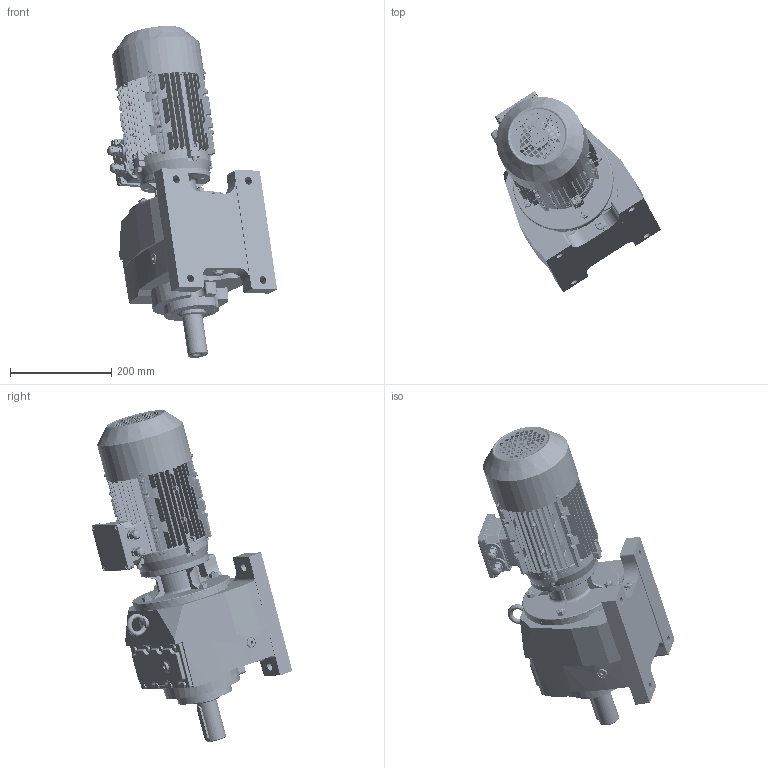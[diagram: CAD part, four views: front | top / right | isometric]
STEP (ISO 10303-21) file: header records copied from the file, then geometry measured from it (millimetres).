
FILE_DESCRIPTION (( 'STEP AP203' ), '1' );
FILE_NAME ('MV_373_0_MX90L.STEP', '2018-12-05T12:54:44', ( '' ), ( '' ), 'SwSTEP 2.0', 'SolidWorks 2012', '' );
FILE_SCHEMA (( 'CONFIG_CONTROL_DESIGN' ));
Length unit declared in the file: millimetre
Products named in the file (26): cross recessed pan head tapping screws gb_GB_CROSS_SCREWS_TYPE128 ST4.2X9.5 H C-N_1; spring lock washers--normal type gb_GB_FASTENER_WASHER_SW 6_1; IE3 90L terminal box cover_1; IE3 90L terminal box_1; IE3 90L fan cover_1; plain parallel keys_GB_CONNECTING_PIECE_KEYS_CSK 8X40_1; IE3 90L fan_1; IE3 90L rotor_1; 3390B14_Varsayìlan; ML2A_Varsayìlan; IE3 90L casing_1; MV_373_0_MX90L; IE3-90L flange B14; hexagon nuts grade c gb_GB_FASTENER_NUT_SNC1 M6-N_1; MX3-90L_B14; IE3 90L  oil seal_1; cross recessed pan head screws gb_GB_CROSS_SCREWS_TYPE1 M5X10-10  H type-N_1; cross recessed pan head screws gb_GB_CROSS_SCREWS_TYPE1 M4X5-5  H type-N_1; IE3 90L cable glandsM16_1; IE3 90L grouding mark_1; circlips for shaft--type a large gb_GB_CONNECTING_PIECE_RING_RRA 19_1; IE3 90L flange_1; plain washers-n series-grade a gb_GB_FASTENER_WASHER_PWNA 4_1; hexagon socket head cap screws gb_GB_FASTENER_SCREWS_HSHCS M6X30-N_1; hexagon flange head tapping screws gb_GB_SQUARE_AND_HEXAGON_TYPE137 ST4.2X9.5 F-N_1; M373
Assembly tree (55 placements, depth 3):
  MV_373_0_MX90L
    M373
    3390B14_Varsayìlan
    ML2A_Varsayìlan
    MX3-90L_B14
      IE3 90L casing_1
      IE3 90L rotor_1
      IE3 90L fan_1
      IE3 90L fan cover_1
      plain parallel keys_GB_CONNECTING_PIECE_KEYS_CSK 8X40_1
      IE3 90L terminal box_1
      IE3 90L terminal box cover_1
      spring lock washers--normal type gb_GB_FASTENER_WASHER_SW 6_1  x8
      cross recessed pan head tapping screws gb_GB_CROSS_SCREWS_TYPE128 ST4.2X9.5 H C-N_1  x4
      hexagon flange head tapping screws gb_GB_SQUARE_AND_HEXAGON_TYPE137 ST4.2X9.5 F-N_1  x4
      hexagon socket head cap screws gb_GB_FASTENER_SCREWS_HSHCS M6X30-N_1  x8
      IE3 90L flange_1
      circlips for shaft--type a large gb_GB_CONNECTING_PIECE_RING_RRA 19_1
      IE3 90L grouding mark_1
      plain washers-n series-grade a gb_GB_FASTENER_WASHER_PWNA 4_1
      cross recessed pan head screws gb_GB_CROSS_SCREWS_TYPE1 M4X5-5  H type-N_1
      cross recessed pan head screws gb_GB_CROSS_SCREWS_TYPE1 M5X10-10  H type-N_1  x4
      IE3 90L cable glandsM16_1  x2
      IE3 90L  oil seal_1
      hexagon nuts grade c gb_GB_FASTENER_NUT_SNC1 M6-N_1  x7
      IE3-90L flange B14
Bounding box: 336.52 x 397.2 x 656.72 mm (x, y, z)
Volume: 11405283.7 mm3; surface area: 1265365.1 mm2
Topology: 54 solids, 54 shells, 5318 faces, 13427 edges, 8244 vertices
Faces by surface type: plane 1916, cylinder 1639, bspline 1110, cone 499, sphere 100, torus 54
Entity records: 190191 total; most frequent: CARTESIAN_POINT 83462, ORIENTED_EDGE 23544, DIRECTION 18627, EDGE_CURVE 11772, VERTEX_POINT 7287, AXIS2_PLACEMENT_3D 6777, EDGE_LOOP 5085, VECTOR 5073
